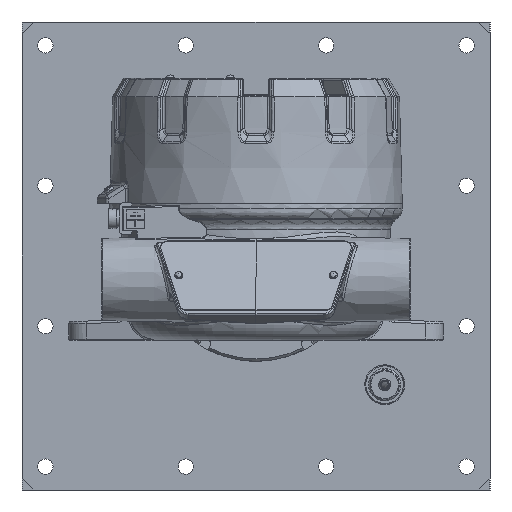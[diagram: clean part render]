
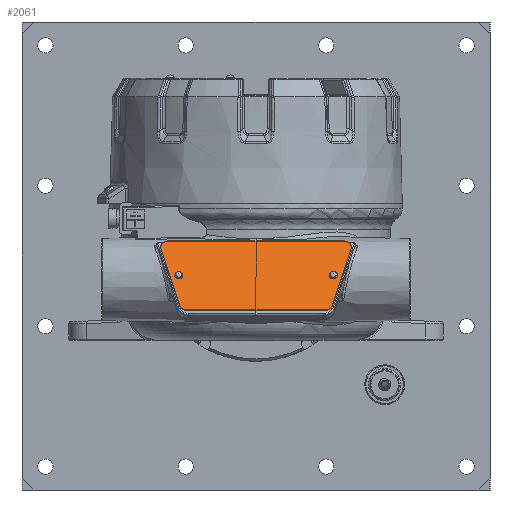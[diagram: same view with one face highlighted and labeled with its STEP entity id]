
A CAD part, front view. The second image highlights one B-rep face of the part: STEP entity #2061.
In plain terms, the highlighted planar face has unit normal (0, -0.819, 0.574).
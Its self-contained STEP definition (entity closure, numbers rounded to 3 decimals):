
#2061=ADVANCED_FACE('',(#76335,#76337,#76339),#76341,.T.);
#76335=FACE_BOUND('',#76336,.T.);
#76336=EDGE_LOOP('',(#93149,#93150,#93151,#93152,#93153,#93154,#93155,#93156));
#76337=FACE_BOUND('',#76338,.T.);
#76338=EDGE_LOOP('',(#93157));
#76339=FACE_BOUND('',#76340,.T.);
#76340=EDGE_LOOP('',(#93158));
#76341=PLANE('',#76342);
#76342=AXIS2_PLACEMENT_3D('',#76343,#76344,#76345);
#76343=CARTESIAN_POINT('',(0.,-72.568,27.683));
#76344=DIRECTION('',(0.,-0.819,0.574));
#76345=DIRECTION('',(-1.,0.,0.));
#93149=ORIENTED_EDGE('',*,*,#98050,.T.);
#93150=ORIENTED_EDGE('',*,*,#98051,.T.);
#93151=ORIENTED_EDGE('',*,*,#98052,.T.);
#93152=ORIENTED_EDGE('',*,*,#98053,.T.);
#93153=ORIENTED_EDGE('',*,*,#98054,.T.);
#93154=ORIENTED_EDGE('',*,*,#98055,.T.);
#93155=ORIENTED_EDGE('',*,*,#98056,.T.);
#93156=ORIENTED_EDGE('',*,*,#98057,.T.);
#93157=ORIENTED_EDGE('',*,*,#98058,.T.);
#93158=ORIENTED_EDGE('',*,*,#98059,.T.);
#98050=EDGE_CURVE('',#103948,#103949,#103950,.T.);
#98051=EDGE_CURVE('',#103949,#103951,#103952,.T.);
#98052=EDGE_CURVE('',#103951,#103953,#103954,.T.);
#98053=EDGE_CURVE('',#103953,#103955,#103956,.T.);
#98054=EDGE_CURVE('',#103955,#103957,#103958,.T.);
#98055=EDGE_CURVE('',#103957,#103959,#103960,.T.);
#98056=EDGE_CURVE('',#103959,#103961,#103962,.T.);
#98057=EDGE_CURVE('',#103961,#103948,#103963,.T.);
#98058=EDGE_CURVE('',#103964,#103964,#103965,.F.);
#98059=EDGE_CURVE('',#103966,#103966,#103967,.F.);
#103948=VERTEX_POINT('',#144347);
#103949=VERTEX_POINT('',#144348);
#103950=LINE('',#144349,#144350);
#103951=VERTEX_POINT('',#144352);
#103952=CIRCLE('',#144353,3.);
#103953=VERTEX_POINT('',#144357);
#103954=LINE('',#144358,#144359);
#103955=VERTEX_POINT('',#144361);
#103956=CIRCLE('',#144362,3.);
#103957=VERTEX_POINT('',#144366);
#103958=LINE('',#144367,#144368);
#103959=VERTEX_POINT('',#144370);
#103960=CIRCLE('',#144371,3.);
#103961=VERTEX_POINT('',#144375);
#103962=LINE('',#144376,#144377);
#103963=CIRCLE('',#144379,3.);
#103964=VERTEX_POINT('',#144383);
#103965=CIRCLE('',#144384,1.25);
#103966=VERTEX_POINT('',#144388);
#103967=CIRCLE('',#144389,1.25);
#144347=CARTESIAN_POINT('',(32.596,-81.617,14.76));
#144348=CARTESIAN_POINT('',(40.634,-64.41,39.334));
#144349=CARTESIAN_POINT('',(32.596,-81.617,14.76));
#144350=VECTOR('',#144351,1.);
#144351=DIRECTION('',(0.259,0.554,0.791));
#144352=CARTESIAN_POINT('',(37.736,-62.244,42.428));
#144353=AXIS2_PLACEMENT_3D('',#144354,#144355,#144356);
#144354=CARTESIAN_POINT('',(37.736,-63.965,39.97));
#144355=DIRECTION('',(0.,-0.819,0.574));
#144356=DIRECTION('',(0.966,-0.148,-0.212));
#144357=CARTESIAN_POINT('',(-37.736,-62.244,42.428));
#144358=CARTESIAN_POINT('',(37.736,-62.244,42.428));
#144359=VECTOR('',#144360,1.);
#144360=DIRECTION('',(-1.,0.,0.));
#144361=CARTESIAN_POINT('',(-40.634,-64.41,39.334));
#144362=AXIS2_PLACEMENT_3D('',#144363,#144364,#144365);
#144363=CARTESIAN_POINT('',(-37.736,-63.965,39.97));
#144364=DIRECTION('',(0.,-0.819,0.574));
#144365=DIRECTION('',(0.,0.574,0.819));
#144366=CARTESIAN_POINT('',(-32.596,-81.617,14.76));
#144367=CARTESIAN_POINT('',(-40.634,-64.41,39.334));
#144368=VECTOR('',#144369,1.);
#144369=DIRECTION('',(0.259,-0.554,-0.791));
#144370=CARTESIAN_POINT('',(-29.698,-82.893,12.938));
#144371=AXIS2_PLACEMENT_3D('',#144372,#144373,#144374);
#144372=CARTESIAN_POINT('',(-29.698,-81.172,15.396));
#144373=DIRECTION('',(0.,-0.819,0.574));
#144374=DIRECTION('',(-0.966,-0.148,-0.212));
#144375=CARTESIAN_POINT('',(29.698,-82.893,12.938));
#144376=CARTESIAN_POINT('',(-29.698,-82.893,12.938));
#144377=VECTOR('',#144378,1.);
#144378=DIRECTION('',(1.,0.,0.));
#144379=AXIS2_PLACEMENT_3D('',#144380,#144381,#144382);
#144380=CARTESIAN_POINT('',(29.698,-81.172,15.396));
#144381=DIRECTION('',(0.,-0.819,0.574));
#144382=DIRECTION('',(0.,-0.574,-0.819));
#144383=CARTESIAN_POINT('',(31.75,-72.568,27.683));
#144384=AXIS2_PLACEMENT_3D('',#144385,#144386,#144387);
#144385=CARTESIAN_POINT('',(33.,-72.568,27.683));
#144386=DIRECTION('',(0.,-0.819,0.574));
#144387=DIRECTION('',(-1.,0.,0.));
#144388=CARTESIAN_POINT('',(-31.75,-72.568,27.683));
#144389=AXIS2_PLACEMENT_3D('',#144390,#144391,#144392);
#144390=CARTESIAN_POINT('',(-33.,-72.568,27.683));
#144391=DIRECTION('',(0.,-0.819,0.574));
#144392=DIRECTION('',(1.,0.,0.));
